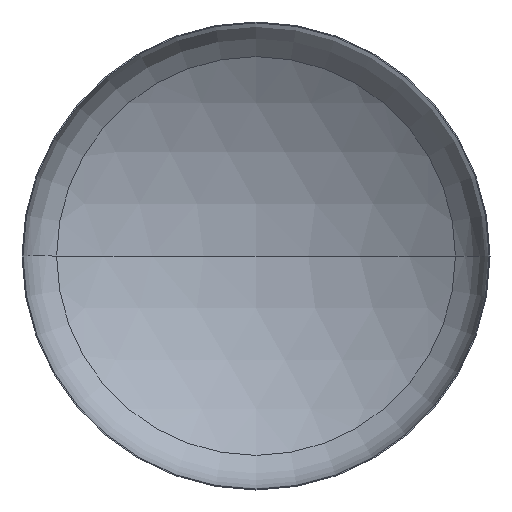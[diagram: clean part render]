
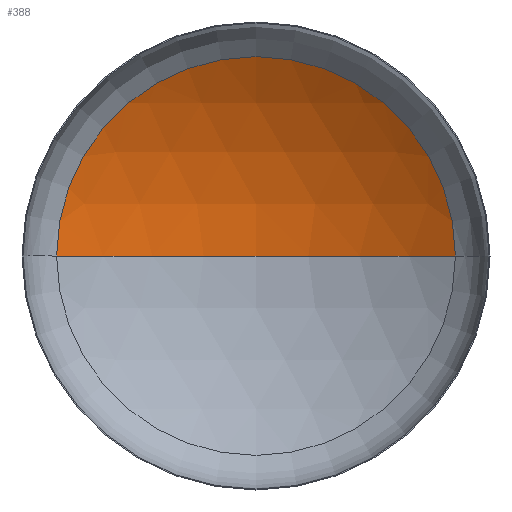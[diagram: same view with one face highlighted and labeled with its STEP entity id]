
A CAD part, front view. The second image highlights one B-rep face of the part: STEP entity #388.
In plain terms, the highlighted spherical face has radius 6000 mm.
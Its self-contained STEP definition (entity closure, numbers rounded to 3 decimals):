
#3 = DIRECTION ( 'NONE',  ( 1., 0., 0. ) ) ;
#6 = DIRECTION ( 'NONE',  ( 0., -1., 0. ) ) ;
#31 = VERTEX_POINT ( 'NONE', #239 ) ;
#39 = ORIENTED_EDGE ( 'NONE', *, *, #263, .T. ) ;
#49 = ORIENTED_EDGE ( 'NONE', *, *, #269, .T. ) ;
#70 = SPHERICAL_SURFACE ( 'NONE', #118, 6000. ) ;
#77 = VERTEX_POINT ( 'NONE', #288 ) ;
#80 = EDGE_LOOP ( 'NONE', ( #87, #49, #39 ) ) ;
#87 = ORIENTED_EDGE ( 'NONE', *, *, #271, .F. ) ;
#100 = DIRECTION ( 'NONE',  ( -1., 0., 0. ) ) ;
#118 = AXIS2_PLACEMENT_3D ( 'NONE', #277, #281, #100 ) ;
#151 = AXIS2_PLACEMENT_3D ( 'NONE', #184, #186, #204 ) ;
#166 = AXIS2_PLACEMENT_3D ( 'NONE', #185, #211, #381 ) ;
#169 = AXIS2_PLACEMENT_3D ( 'NONE', #246, #6, #3 ) ;
#184 = CARTESIAN_POINT ( 'NONE',  ( 0., -4055.93, 0. ) ) ;
#185 = CARTESIAN_POINT ( 'NONE',  ( 0., -4055.93, 0. ) ) ;
#186 = DIRECTION ( 'NONE',  ( 0., 0., 1. ) ) ;
#204 = DIRECTION ( 'NONE',  ( 1., 0., 0. ) ) ;
#207 = CARTESIAN_POINT ( 'NONE',  ( -3195.046, 1022.621, 0. ) ) ;
#211 = DIRECTION ( 'NONE',  ( 0., 0., -1. ) ) ;
#239 = CARTESIAN_POINT ( 'NONE',  ( 0., 1944.07, 0. ) ) ;
#246 = CARTESIAN_POINT ( 'NONE',  ( 0., 1022.621, 0. ) ) ;
#263 = EDGE_CURVE ( 'NONE', #77, #267, #358, .T. ) ;
#267 = VERTEX_POINT ( 'NONE', #207 ) ;
#269 = EDGE_CURVE ( 'NONE', #31, #77, #303, .T. ) ;
#271 = EDGE_CURVE ( 'NONE', #31, #267, #408, .T. ) ;
#277 = CARTESIAN_POINT ( 'NONE',  ( 0., -4055.93, 0. ) ) ;
#281 = DIRECTION ( 'NONE',  ( 0., 0., -1. ) ) ;
#288 = CARTESIAN_POINT ( 'NONE',  ( 3195.046, 1022.621, 0. ) ) ;
#303 = CIRCLE ( 'NONE', #166, 6000. ) ;
#358 = CIRCLE ( 'NONE', #169, 3195.046 ) ;
#375 = FACE_OUTER_BOUND ( 'NONE', #80, .T. ) ;
#381 = DIRECTION ( 'NONE',  ( -1., 0., 0. ) ) ;
#388 = ADVANCED_FACE ( 'NONE', ( #375 ), #70, .F. ) ;
#408 = CIRCLE ( 'NONE', #151, 6000. ) ;
